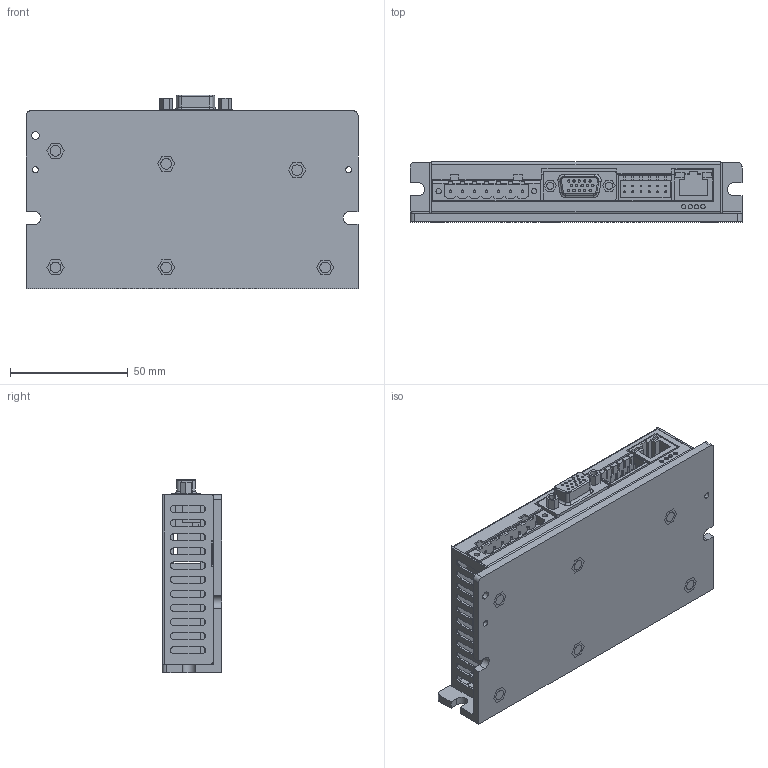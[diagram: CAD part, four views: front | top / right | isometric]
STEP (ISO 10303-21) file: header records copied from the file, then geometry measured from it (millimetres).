
FILE_DESCRIPTION((''),'2;1');
FILE_NAME('FD114S_ASM','2022-02-24T10:05:53',('RD0060'),(''),'CREO PARAMETRIC BY PTC INC, 2016510','CREO PARAMETRIC BY PTC INC, 2016510','');
FILE_SCHEMA(('CONFIG_CONTROL_DESIGN'));
Length unit declared in the file: millimetre
Products named in the file (15): PCB_80; CED-6_60; WEBKOU_15_7; DINKLE-0156-2512L_50; DINKLE-0156-2512L_ASM_50_ASM; BOMA_4_4; 9ZHEN-DAOLISHI_2_3; PCB-ASM_ASM_69_ASM; HT-WU_41; BSO-M3X7_27; HT-WU_ASM_8_ASM; TOP_67; THERMAL_29; FD124S_ASM_51_ASM; FD114S_ASM
Assembly tree (21 placements, depth 5):
  FD114S_ASM
    FD124S_ASM_51_ASM
      PCB-ASM_ASM_69_ASM
        PCB_80
        CED-6_60
        WEBKOU_15_7  x3
        DINKLE-0156-2512L_ASM_50_ASM
          DINKLE-0156-2512L_50
        BOMA_4_4
        9ZHEN-DAOLISHI_2_3
      HT-WU_ASM_8_ASM
        HT-WU_41
        BSO-M3X7_27  x6
      TOP_67
      THERMAL_29
Bounding box: 141 x 25.4 x 82.1 mm (x, y, z)
Volume: 95480.8 mm3; surface area: 96042.2 mm2
Topology: 17 solids, 17 shells, 853 faces, 2086 edges, 1370 vertices
Faces by surface type: plane 548, cylinder 297, torus 8
Entity records: 21809 total; most frequent: DIRECTION 3858, CARTESIAN_POINT 3710, ORIENTED_EDGE 3536, EDGE_CURVE 1768, AXIS2_PLACEMENT_3D 1323, VECTOR 1212, LINE 1212, VERTEX_POINT 1158
